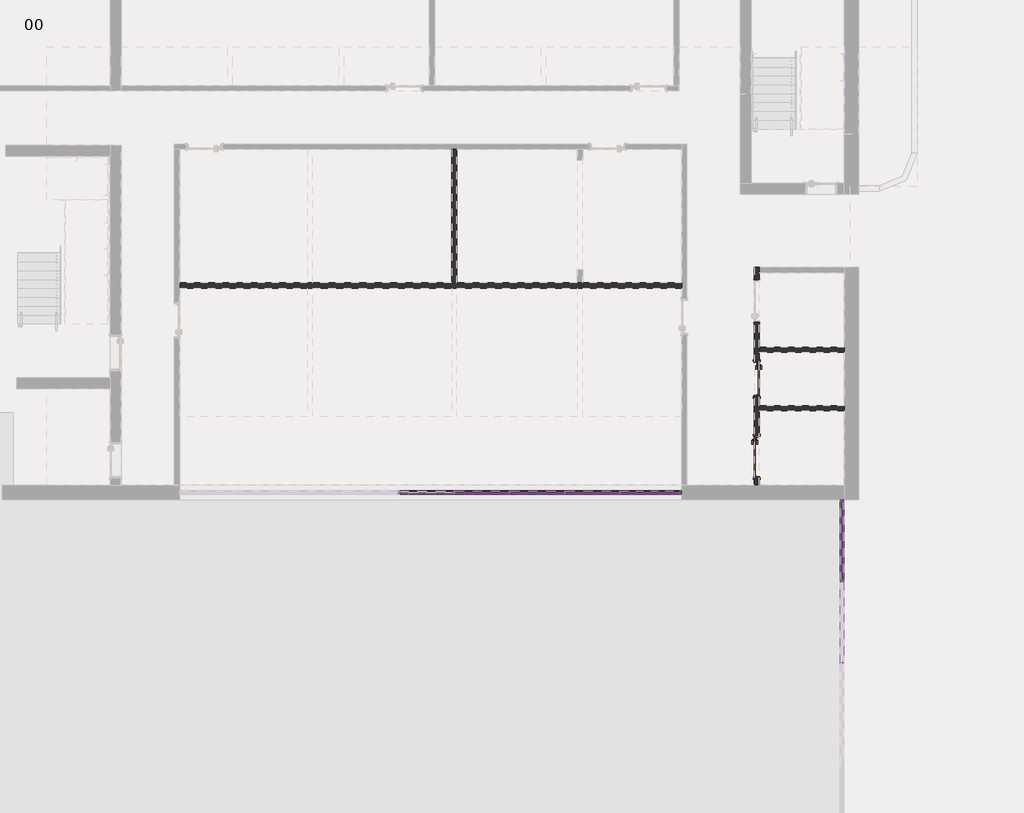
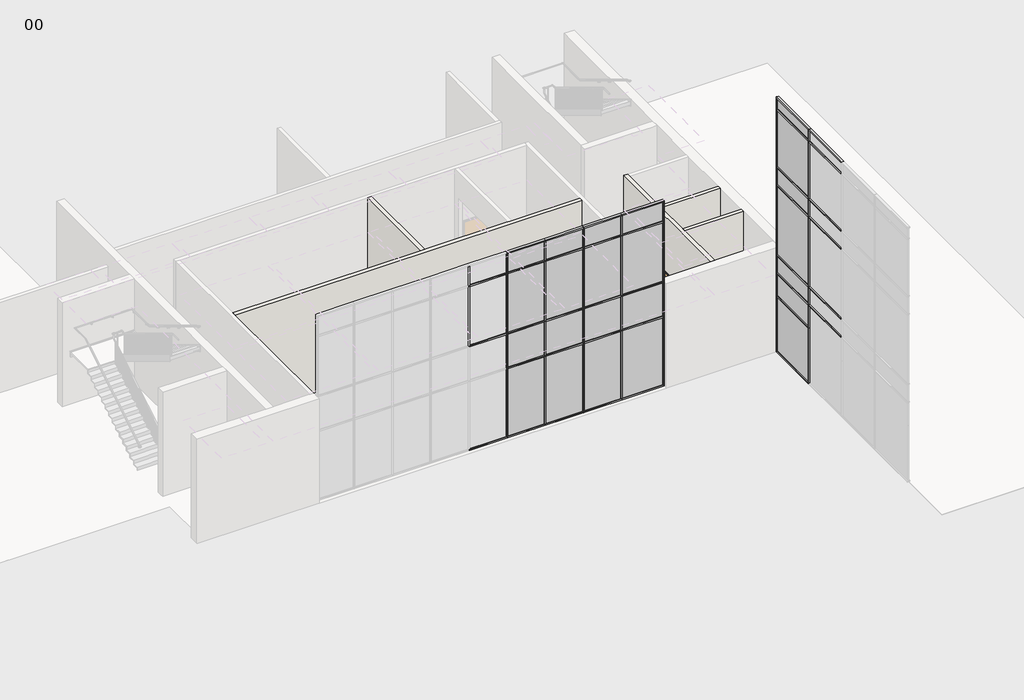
# One storey, part 3 of 11: 73 members, 23 plates, 5 walls, 2 doors.
"""IFC4 building model written with IfcOpenShell, lengths in millimetres."""

from ifc_helpers import new_model, si_unit, origin, origin_with_axes, place, context, project, spatial, polyline, outline, extrude, faceted_brep, transform, mapped, element, save
from components import doors_intsgl_1_1010x2110mm_12a6edaf, doors_intsgl_1_1200x2110mm_07b1b6db, rectangular_mullion_curtainwallmullion_rectangular_generic_5675a122, rectangular_mullion_curtainwallmullion_rectangular_generic_397fb318, rectangular_mullion_curtainwallmullion_rectangular_generic_8ae0e668, rectangular_mullion_curtainwallmullion_rectangular_generic_15c16c91, rectangular_mullion_curtainwallmullion_rectangular_generic_85ff6675, rectangular_mullion_curtainwallmullion_rectangular_generic_08fbcc14, rectangular_mullion_curtainwallmullion_rectangular_generic_672c12ae, rectangular_mullion_curtainwallmullion_rectangular_generic_83e55909, rectangular_mullion_curtainwallmullion_rectangular_generic_8792b306, rectangular_mullion_curtainwallmullion_rectangular_generic_adcf4dab, rectangular_mullion_curtainwallmullion_rectangular_generic_bca74f28, rectangular_mullion_curtainwallmullion_rectangular_generic_1467ba8b, rectangular_mullion_curtainwallmullion_rectangular_generic_1facc6e8, rectangular_mullion_curtainwallmullion_rectangular_generic_766165b3, rectangular_mullion_curtainwallmullion_rectangular_generic_b870b509, rectangular_mullion_curtainwallmullion_rectangular_generic_bb021e59, rectangular_mullion_curtainwallmullion_rectangular_generic_c971d07e, rectangular_mullion_curtainwallmullion_rectangular_generic_e6673756, rectangular_mullion_curtainwallmullion_rectangular_generic_63c9f2cf, rectangular_mullion_curtainwallmullion_rectangular_generic_d70bf6dd, rectangular_mullion_curtainwallmullion_rectangular_generic_654ac675, rectangular_mullion_curtainwallmullion_rectangular_generic_e7c47ca9, rectangular_mullion_curtainwallmullion_rectangular_generic_f3eef52e, rectangular_mullion_curtainwallmullion_rectangular_generic_c0600e94, rectangular_mullion_curtainwallmullion_rectangular_generic_0bcd7f07, rectangular_mullion_curtainwallmullion_rectangular_generic_3bdb59d8, rectangular_mullion_curtainwallmullion_rectangular_generic_afae33c0, rectangular_mullion_curtainwallmullion_rectangular_generic_6b79dff2, system_panel_curtainpanel_glazed_2a823346, system_panel_curtainpanel_glazed_29dab1f5, system_panel_curtainpanel_glazed_21ea604a, system_panel_curtainpanel_glazed_8c8521e7, system_panel_curtainpanel_glazed_c680861d, system_panel_curtainpanel_glazed_7c054268, system_panel_curtainpanel_glazed_8ab64ea0, system_panel_curtainpanel_glazed_beeb97b1, system_panel_curtainpanel_solid_7e97e8f3, system_panel_curtainpanel_solid_a1b8920c, system_panel_curtainpanel_solid_5b00d7df, system_panel_curtainpanel_solid_a154ba9f, system_panel_curtainpanel_solid_a51c248c, system_panel_curtainpanel_solid_c949ee80

model = new_model("IFC4")

# Units and contexts
model_context = context("Model", 3, world=origin())
ifc_project = project(units=[si_unit("LENGTHUNIT", "METRE", prefix="MILLI")], contexts=[model_context])

# Site, building, storey
site = spatial("IfcSite", under=ifc_project)
building = spatial("IfcBuilding", under=site)
storey = spatial("IfcBuildingStorey", under=building, Name="00", Elevation=0.0)

# Doors
placement = place(None, origin())
doors_intsgl_1_1010x2110mm_shape = doors_intsgl_1_1010x2110mm_12a6edaf(model_context)
element("IfcDoor", 1, ObjectType="Doors_IntSgl_1 : 1010x2110mm", at=placement, inside=storey, context=model_context, shape_type="MappedRepresentation", body=[
    mapped(doors_intsgl_1_1010x2110mm_shape, transform((443263.3206883, -393328.0026386, 0.0), x_axis=(0.0, -1.0, 0.0), y_axis=(1.0, 0.0, 0.0), z_axis=(0.0, 0.0, 1.0))),
])
doors_intsgl_1_1200x2110mm_shape = doors_intsgl_1_1200x2110mm_07b1b6db(model_context)
element("IfcDoor", 2, ObjectType="Doors_IntSgl_1 : 1200x2110mm", at=placement, inside=storey, context=model_context, shape_type="MappedRepresentation", body=[
    mapped(doors_intsgl_1_1200x2110mm_shape, transform((443263.3206883, -395528.0026386, 0.0), x_axis=(0.0, -1.0, 0.0), y_axis=(1.0, 0.0, 0.0), z_axis=(0.0, 0.0, 1.0))),
])

# Members
rectangular_mullion_curtainwallmullion_rectangular_generic_shape = rectangular_mullion_curtainwallmullion_rectangular_generic_5675a122(model_context)
element("IfcMember", 3, ObjectType="Rectangular Mullion : CurtainWallMullion_Rectangular_Generic", at=placement, inside=storey, context=model_context, shape_type="MappedRepresentation", body=[
    mapped(rectangular_mullion_curtainwallmullion_rectangular_generic_shape, transform((445668.3206883, -399032.2026388, 50.0), x_axis=(0.0, 1.0, 0.0), y_axis=(1.0, 0.0, 0.0), z_axis=(0.0, 0.0, -1.0))),
])
rectangular_mullion_curtainwallmullion_rectangular_generic_2_shape = rectangular_mullion_curtainwallmullion_rectangular_generic_397fb318(model_context)
element("IfcMember", 4, ObjectType="Rectangular Mullion : CurtainWallMullion_Rectangular_Generic", at=placement, inside=storey, context=model_context, shape_type="MappedRepresentation", body=[
    mapped(rectangular_mullion_curtainwallmullion_rectangular_generic_2_shape, transform((445668.3206883, -396730.0026386, 50.0), x_axis=(0.0, 1.0, 0.0), y_axis=(1.0, 0.0, 0.0), z_axis=(0.0, 0.0, -1.0))),
])
rectangular_mullion_curtainwallmullion_rectangular_generic_3_shape = rectangular_mullion_curtainwallmullion_rectangular_generic_8ae0e668(model_context)
element("IfcMember", 5, ObjectType="Rectangular Mullion : CurtainWallMullion_Rectangular_Generic", at=placement, inside=storey, context=model_context, shape_type="MappedRepresentation", body=[
    mapped(rectangular_mullion_curtainwallmullion_rectangular_generic_3_shape, transform((445668.3206883, -399032.2026388, 10486.7), x_axis=(0.0, 1.0, 0.0), y_axis=(1.0, 0.0, 0.0), z_axis=(0.0, 0.0, -1.0))),
])
rectangular_mullion_curtainwallmullion_rectangular_generic_4_shape = rectangular_mullion_curtainwallmullion_rectangular_generic_15c16c91(model_context)
element("IfcMember", 6, ObjectType="Rectangular Mullion : CurtainWallMullion_Rectangular_Generic", at=placement, inside=storey, context=model_context, shape_type="MappedRepresentation", body=[
    mapped(rectangular_mullion_curtainwallmullion_rectangular_generic_4_shape, transform((445668.3206883, -396730.0026386, 10486.7), x_axis=(0.0, 1.0, 0.0), y_axis=(1.0, 0.0, 0.0), z_axis=(0.0, 0.0, -1.0))),
])
rectangular_mullion_curtainwallmullion_rectangular_generic_5_shape = rectangular_mullion_curtainwallmullion_rectangular_generic_85ff6675(model_context)
element("IfcMember", 7, ObjectType="Rectangular Mullion : CurtainWallMullion_Rectangular_Generic", at=placement, inside=storey, context=model_context, shape_type="MappedRepresentation", body=[
    mapped(rectangular_mullion_curtainwallmullion_rectangular_generic_5_shape, transform((445668.3206883, -399032.2026388, 3425.0), x_axis=(0.0, 1.0, 0.0), y_axis=(1.0, 0.0, 0.0), z_axis=(0.0, 0.0, -1.0))),
])
element("IfcMember", 8, ObjectType="Rectangular Mullion : CurtainWallMullion_Rectangular_Generic", at=placement, inside=storey, context=model_context, shape_type="MappedRepresentation", body=[
    mapped(rectangular_mullion_curtainwallmullion_rectangular_generic_5_shape, transform((445668.3206883, -399032.2026388, 7225.0), x_axis=(0.0, 1.0, 0.0), y_axis=(1.0, 0.0, 0.0), z_axis=(0.0, 0.0, -1.0))),
])
rectangular_mullion_curtainwallmullion_rectangular_generic_6_shape = rectangular_mullion_curtainwallmullion_rectangular_generic_08fbcc14(model_context)
element("IfcMember", 9, ObjectType="Rectangular Mullion : CurtainWallMullion_Rectangular_Generic", at=placement, inside=storey, context=model_context, shape_type="MappedRepresentation", body=[
    mapped(rectangular_mullion_curtainwallmullion_rectangular_generic_6_shape, transform((445668.3206883, -399032.2026388, 8000.0), x_axis=(0.0, 1.0, 0.0), y_axis=(1.0, 0.0, 0.0), z_axis=(0.0, 0.0, -1.0))),
])
rectangular_mullion_curtainwallmullion_rectangular_generic_7_shape = rectangular_mullion_curtainwallmullion_rectangular_generic_672c12ae(model_context)
element("IfcMember", 10, ObjectType="Rectangular Mullion : CurtainWallMullion_Rectangular_Generic", at=placement, inside=storey, context=model_context, shape_type="MappedRepresentation", body=[
    mapped(rectangular_mullion_curtainwallmullion_rectangular_generic_7_shape, transform((445668.3206883, -396730.0026386, 7225.0), x_axis=(0.0, 1.0, 0.0), y_axis=(1.0, 0.0, 0.0), z_axis=(0.0, 0.0, -1.0))),
])
element("IfcMember", 11, ObjectType="Rectangular Mullion : CurtainWallMullion_Rectangular_Generic", at=placement, inside=storey, context=model_context, shape_type="MappedRepresentation", body=[
    mapped(rectangular_mullion_curtainwallmullion_rectangular_generic_7_shape, transform((445668.3206883, -396730.0026386, 3425.0), x_axis=(0.0, 1.0, 0.0), y_axis=(1.0, 0.0, 0.0), z_axis=(0.0, 0.0, -1.0))),
])
rectangular_mullion_curtainwallmullion_rectangular_generic_8_shape = rectangular_mullion_curtainwallmullion_rectangular_generic_83e55909(model_context)
element("IfcMember", 12, ObjectType="Rectangular Mullion : CurtainWallMullion_Rectangular_Generic", at=placement, inside=storey, context=model_context, shape_type="MappedRepresentation", body=[
    mapped(rectangular_mullion_curtainwallmullion_rectangular_generic_8_shape, transform((445668.3206883, -396730.0026386, 8000.0), x_axis=(0.0, 1.0, 0.0), y_axis=(1.0, 0.0, 0.0), z_axis=(0.0, 0.0, -1.0))),
])
rectangular_mullion_curtainwallmullion_rectangular_generic_9_shape = rectangular_mullion_curtainwallmullion_rectangular_generic_8792b306(model_context)
element("IfcMember", 13, ObjectType="Rectangular Mullion : CurtainWallMullion_Rectangular_Generic", at=placement, inside=storey, context=model_context, shape_type="MappedRepresentation", body=[
    mapped(rectangular_mullion_curtainwallmullion_rectangular_generic_9_shape, transform((445668.3206883, -399032.2026388, 4200.0), x_axis=(0.0, 1.0, 0.0), y_axis=(1.0, 0.0, 0.0), z_axis=(0.0, 0.0, -1.0))),
])
rectangular_mullion_curtainwallmullion_rectangular_generic_10_shape = rectangular_mullion_curtainwallmullion_rectangular_generic_adcf4dab(model_context)
element("IfcMember", 14, ObjectType="Rectangular Mullion : CurtainWallMullion_Rectangular_Generic", at=placement, inside=storey, context=model_context, shape_type="MappedRepresentation", body=[
    mapped(rectangular_mullion_curtainwallmullion_rectangular_generic_10_shape, transform((445668.3206883, -396730.0026386, 4200.0), x_axis=(0.0, 1.0, 0.0), y_axis=(1.0, 0.0, 0.0), z_axis=(0.0, 0.0, -1.0))),
])
rectangular_mullion_curtainwallmullion_rectangular_generic_11_shape = rectangular_mullion_curtainwallmullion_rectangular_generic_bca74f28(model_context)
element("IfcMember", 15, ObjectType="Rectangular Mullion : CurtainWallMullion_Rectangular_Generic", at=placement, inside=storey, context=model_context, shape_type="MappedRepresentation", body=[
    mapped(rectangular_mullion_curtainwallmullion_rectangular_generic_11_shape, transform((445668.3206883, -399032.2026388, 2425.0), x_axis=(0.0, 1.0, 0.0), y_axis=(1.0, 0.0, 0.0), z_axis=(0.0, 0.0, -1.0))),
])
rectangular_mullion_curtainwallmullion_rectangular_generic_12_shape = rectangular_mullion_curtainwallmullion_rectangular_generic_1467ba8b(model_context)
element("IfcMember", 16, ObjectType="Rectangular Mullion : CurtainWallMullion_Rectangular_Generic", at=placement, inside=storey, context=model_context, shape_type="MappedRepresentation", body=[
    mapped(rectangular_mullion_curtainwallmullion_rectangular_generic_12_shape, transform((445668.3206883, -396730.0026386, 2425.0), x_axis=(0.0, 1.0, 0.0), y_axis=(1.0, 0.0, 0.0), z_axis=(0.0, 0.0, -1.0))),
])
rectangular_mullion_curtainwallmullion_rectangular_generic_13_shape = rectangular_mullion_curtainwallmullion_rectangular_generic_1facc6e8(model_context)
element("IfcMember", 17, ObjectType="Rectangular Mullion : CurtainWallMullion_Rectangular_Generic", at=placement, inside=storey, context=model_context, shape_type="MappedRepresentation", body=[
    mapped(rectangular_mullion_curtainwallmullion_rectangular_generic_13_shape, transform((445668.3206883, -396730.0026386, 11000.0), x_axis=(0.0, 0.0, 1.0), y_axis=(1.0, 0.0, 0.0), z_axis=(0.0, 1.0, 0.0))),
])
rectangular_mullion_curtainwallmullion_rectangular_generic_14_shape = rectangular_mullion_curtainwallmullion_rectangular_generic_766165b3(model_context)
element("IfcMember", 18, ObjectType="Rectangular Mullion : CurtainWallMullion_Rectangular_Generic", at=placement, inside=storey, context=model_context, shape_type="MappedRepresentation", body=[
    mapped(rectangular_mullion_curtainwallmullion_rectangular_generic_14_shape, transform((445668.3206883, -399032.2026388, 11000.0), x_axis=(0.0, 0.0, 1.0), y_axis=(1.0, 0.0, 0.0), z_axis=(0.0, 1.0, 0.0))),
])
rectangular_mullion_curtainwallmullion_rectangular_generic_15_shape = rectangular_mullion_curtainwallmullion_rectangular_generic_b870b509(model_context)
element("IfcMember", 19, ObjectType="Rectangular Mullion : CurtainWallMullion_Rectangular_Generic", at=placement, inside=storey, context=model_context, shape_type="MappedRepresentation", body=[
    mapped(rectangular_mullion_curtainwallmullion_rectangular_generic_15_shape, transform((445668.3206883, -399057.2026388, 4200.0), x_axis=(0.0, 0.0, 1.0), y_axis=(1.0, 0.0, 0.0), z_axis=(0.0, 1.0, 0.0))),
])
element("IfcMember", 20, ObjectType="Rectangular Mullion : CurtainWallMullion_Rectangular_Generic", at=placement, inside=storey, context=model_context, shape_type="MappedRepresentation", body=[
    mapped(rectangular_mullion_curtainwallmullion_rectangular_generic_15_shape, transform((445668.3206883, -399057.2026388, 7225.0), x_axis=(0.0, 0.0, 1.0), y_axis=(1.0, 0.0, 0.0), z_axis=(0.0, 1.0, 0.0))),
])
element("IfcMember", 21, ObjectType="Rectangular Mullion : CurtainWallMullion_Rectangular_Generic", at=placement, inside=storey, context=model_context, shape_type="MappedRepresentation", body=[
    mapped(rectangular_mullion_curtainwallmullion_rectangular_generic_15_shape, transform((445668.3206883, -399057.2026388, 10486.7), x_axis=(0.0, 0.0, 1.0), y_axis=(1.0, 0.0, 0.0), z_axis=(0.0, 1.0, 0.0))),
])
element("IfcMember", 22, ObjectType="Rectangular Mullion : CurtainWallMullion_Rectangular_Generic", at=placement, inside=storey, context=model_context, shape_type="MappedRepresentation", body=[
    mapped(rectangular_mullion_curtainwallmullion_rectangular_generic_15_shape, transform((445668.3206883, -399057.2026388, 3425.0), x_axis=(0.0, 0.0, 1.0), y_axis=(1.0, 0.0, 0.0), z_axis=(0.0, 1.0, 0.0))),
])
element("IfcMember", 23, ObjectType="Rectangular Mullion : CurtainWallMullion_Rectangular_Generic", at=placement, inside=storey, context=model_context, shape_type="MappedRepresentation", body=[
    mapped(rectangular_mullion_curtainwallmullion_rectangular_generic_15_shape, transform((445668.3206883, -399057.2026388, 8000.0), x_axis=(0.0, 0.0, 1.0), y_axis=(1.0, 0.0, 0.0), z_axis=(0.0, 1.0, 0.0))),
])
element("IfcMember", 24, ObjectType="Rectangular Mullion : CurtainWallMullion_Rectangular_Generic", at=placement, inside=storey, context=model_context, shape_type="MappedRepresentation", body=[
    mapped(rectangular_mullion_curtainwallmullion_rectangular_generic_13_shape, transform((445668.3206883, -399032.2026388, 0.0), x_axis=(0.0, 0.0, -1.0), y_axis=(1.0, 0.0, 0.0), z_axis=(0.0, -1.0, 0.0))),
])
rectangular_mullion_curtainwallmullion_rectangular_generic_16_shape = rectangular_mullion_curtainwallmullion_rectangular_generic_bb021e59(model_context)
element("IfcMember", 25, ObjectType="Rectangular Mullion : CurtainWallMullion_Rectangular_Generic", at=placement, inside=storey, context=model_context, shape_type="MappedRepresentation", body=[
    mapped(rectangular_mullion_curtainwallmullion_rectangular_generic_16_shape, transform((445668.3206883, -396780.0026386, 2425.0), x_axis=(0.0, 0.0, 1.0), y_axis=(1.0, 0.0, 0.0), z_axis=(0.0, 1.0, 0.0))),
])
element("IfcMember", 26, ObjectType="Rectangular Mullion : CurtainWallMullion_Rectangular_Generic", at=placement, inside=storey, context=model_context, shape_type="MappedRepresentation", body=[
    mapped(rectangular_mullion_curtainwallmullion_rectangular_generic_16_shape, transform((445668.3206883, -396780.0026386, 4200.0), x_axis=(0.0, 0.0, 1.0), y_axis=(1.0, 0.0, 0.0), z_axis=(0.0, 1.0, 0.0))),
])
element("IfcMember", 27, ObjectType="Rectangular Mullion : CurtainWallMullion_Rectangular_Generic", at=placement, inside=storey, context=model_context, shape_type="MappedRepresentation", body=[
    mapped(rectangular_mullion_curtainwallmullion_rectangular_generic_16_shape, transform((445668.3206883, -396780.0026386, 7225.0), x_axis=(0.0, 0.0, 1.0), y_axis=(1.0, 0.0, 0.0), z_axis=(0.0, 1.0, 0.0))),
])
element("IfcMember", 28, ObjectType="Rectangular Mullion : CurtainWallMullion_Rectangular_Generic", at=placement, inside=storey, context=model_context, shape_type="MappedRepresentation", body=[
    mapped(rectangular_mullion_curtainwallmullion_rectangular_generic_16_shape, transform((445668.3206883, -396780.0026386, 10486.7), x_axis=(0.0, 0.0, 1.0), y_axis=(1.0, 0.0, 0.0), z_axis=(0.0, 1.0, 0.0))),
])
element("IfcMember", 29, ObjectType="Rectangular Mullion : CurtainWallMullion_Rectangular_Generic", at=placement, inside=storey, context=model_context, shape_type="MappedRepresentation", body=[
    mapped(rectangular_mullion_curtainwallmullion_rectangular_generic_16_shape, transform((445668.3206883, -396780.0026386, 3425.0), x_axis=(0.0, 0.0, 1.0), y_axis=(1.0, 0.0, 0.0), z_axis=(0.0, 1.0, 0.0))),
])
element("IfcMember", 30, ObjectType="Rectangular Mullion : CurtainWallMullion_Rectangular_Generic", at=placement, inside=storey, context=model_context, shape_type="MappedRepresentation", body=[
    mapped(rectangular_mullion_curtainwallmullion_rectangular_generic_16_shape, transform((445668.3206883, -396780.0026386, 8000.0), x_axis=(0.0, 0.0, 1.0), y_axis=(1.0, 0.0, 0.0), z_axis=(0.0, 1.0, 0.0))),
])
rectangular_mullion_curtainwallmullion_rectangular_generic_17_shape = rectangular_mullion_curtainwallmullion_rectangular_generic_c971d07e(model_context)
element("IfcMember", 31, ObjectType="Rectangular Mullion : CurtainWallMullion_Rectangular_Generic", at=placement, inside=storey, context=model_context, shape_type="MappedRepresentation", body=[
    mapped(rectangular_mullion_curtainwallmullion_rectangular_generic_17_shape, transform((437850.0984659, -396529.0026386, 8000.0), x_axis=(0.0, 0.0, 1.0), y_axis=(0.0, 1.0, 0.0), z_axis=(-1.0, 0.0, 0.0))),
])
element("IfcMember", 32, ObjectType="Rectangular Mullion : CurtainWallMullion_Rectangular_Generic", at=placement, inside=storey, context=model_context, shape_type="MappedRepresentation", body=[
    mapped(rectangular_mullion_curtainwallmullion_rectangular_generic_17_shape, transform((436288.9873549, -396529.0026386, 8000.0), x_axis=(0.0, 0.0, 1.0), y_axis=(0.0, 1.0, 0.0), z_axis=(-1.0, 0.0, 0.0))),
])
element("IfcMember", 33, ObjectType="Rectangular Mullion : CurtainWallMullion_Rectangular_Generic", at=placement, inside=storey, context=model_context, shape_type="MappedRepresentation", body=[
    mapped(rectangular_mullion_curtainwallmullion_rectangular_generic_17_shape, transform((434727.8762438, -396529.0026386, 8000.0), x_axis=(0.0, 0.0, 1.0), y_axis=(0.0, 1.0, 0.0), z_axis=(-1.0, 0.0, 0.0))),
])
element("IfcMember", 34, ObjectType="Rectangular Mullion : CurtainWallMullion_Rectangular_Generic", at=placement, inside=storey, context=model_context, shape_type="MappedRepresentation", body=[
    mapped(rectangular_mullion_curtainwallmullion_rectangular_generic_17_shape, transform((439411.209577, -396529.0026386, 0.0), x_axis=(0.0, 0.0, -1.0), y_axis=(0.0, 1.0, 0.0), z_axis=(1.0, 0.0, 0.0))),
])
element("IfcMember", 35, ObjectType="Rectangular Mullion : CurtainWallMullion_Rectangular_Generic", at=placement, inside=storey, context=model_context, shape_type="MappedRepresentation", body=[
    mapped(rectangular_mullion_curtainwallmullion_rectangular_generic_17_shape, transform((437850.0984659, -396529.0026386, 0.0), x_axis=(0.0, 0.0, -1.0), y_axis=(0.0, 1.0, 0.0), z_axis=(1.0, 0.0, 0.0))),
])
element("IfcMember", 36, ObjectType="Rectangular Mullion : CurtainWallMullion_Rectangular_Generic", at=placement, inside=storey, context=model_context, shape_type="MappedRepresentation", body=[
    mapped(rectangular_mullion_curtainwallmullion_rectangular_generic_17_shape, transform((436288.9873549, -396529.0026386, 0.0), x_axis=(0.0, 0.0, -1.0), y_axis=(0.0, 1.0, 0.0), z_axis=(1.0, 0.0, 0.0))),
])
element("IfcMember", 37, ObjectType="Rectangular Mullion : CurtainWallMullion_Rectangular_Generic", at=placement, inside=storey, context=model_context, shape_type="MappedRepresentation", body=[
    mapped(rectangular_mullion_curtainwallmullion_rectangular_generic_17_shape, transform((434727.8762438, -396529.0026386, 0.0), x_axis=(0.0, 0.0, -1.0), y_axis=(0.0, 1.0, 0.0), z_axis=(1.0, 0.0, 0.0))),
])
rectangular_mullion_curtainwallmullion_rectangular_generic_18_shape = rectangular_mullion_curtainwallmullion_rectangular_generic_e6673756(model_context)
element("IfcMember", 38, ObjectType="Rectangular Mullion : CurtainWallMullion_Rectangular_Generic", at=placement, inside=storey, context=model_context, shape_type="MappedRepresentation", body=[
    mapped(rectangular_mullion_curtainwallmullion_rectangular_generic_18_shape, transform((437875.0984659, -396529.0026386, 3000.0), x_axis=(0.0, 0.0, 1.0), y_axis=(0.0, 1.0, 0.0), z_axis=(-1.0, 0.0, 0.0))),
])
element("IfcMember", 39, ObjectType="Rectangular Mullion : CurtainWallMullion_Rectangular_Generic", at=placement, inside=storey, context=model_context, shape_type="MappedRepresentation", body=[
    mapped(rectangular_mullion_curtainwallmullion_rectangular_generic_18_shape, transform((436313.9873549, -396529.0026386, 3000.0), x_axis=(0.0, 0.0, 1.0), y_axis=(0.0, 1.0, 0.0), z_axis=(-1.0, 0.0, 0.0))),
])
element("IfcMember", 40, ObjectType="Rectangular Mullion : CurtainWallMullion_Rectangular_Generic", at=placement, inside=storey, context=model_context, shape_type="MappedRepresentation", body=[
    mapped(rectangular_mullion_curtainwallmullion_rectangular_generic_18_shape, transform((434752.8762438, -396529.0026386, 3000.0), x_axis=(0.0, 0.0, 1.0), y_axis=(0.0, 1.0, 0.0), z_axis=(-1.0, 0.0, 0.0))),
])
element("IfcMember", 41, ObjectType="Rectangular Mullion : CurtainWallMullion_Rectangular_Generic", at=placement, inside=storey, context=model_context, shape_type="MappedRepresentation", body=[
    mapped(rectangular_mullion_curtainwallmullion_rectangular_generic_18_shape, transform((437875.0984659, -396529.0026386, 4500.0), x_axis=(0.0, 0.0, 1.0), y_axis=(0.0, 1.0, 0.0), z_axis=(-1.0, 0.0, 0.0))),
])
element("IfcMember", 42, ObjectType="Rectangular Mullion : CurtainWallMullion_Rectangular_Generic", at=placement, inside=storey, context=model_context, shape_type="MappedRepresentation", body=[
    mapped(rectangular_mullion_curtainwallmullion_rectangular_generic_18_shape, transform((436313.9873549, -396529.0026386, 4500.0), x_axis=(0.0, 0.0, 1.0), y_axis=(0.0, 1.0, 0.0), z_axis=(-1.0, 0.0, 0.0))),
])
element("IfcMember", 43, ObjectType="Rectangular Mullion : CurtainWallMullion_Rectangular_Generic", at=placement, inside=storey, context=model_context, shape_type="MappedRepresentation", body=[
    mapped(rectangular_mullion_curtainwallmullion_rectangular_generic_18_shape, transform((434752.8762438, -396529.0026386, 4500.0), x_axis=(0.0, 0.0, 1.0), y_axis=(0.0, 1.0, 0.0), z_axis=(-1.0, 0.0, 0.0))),
])
element("IfcMember", 44, ObjectType="Rectangular Mullion : CurtainWallMullion_Rectangular_Generic", at=placement, inside=storey, context=model_context, shape_type="MappedRepresentation", body=[
    mapped(rectangular_mullion_curtainwallmullion_rectangular_generic_18_shape, transform((433191.7651328, -396529.0026386, 4500.0), x_axis=(0.0, 0.0, 1.0), y_axis=(0.0, 1.0, 0.0), z_axis=(-1.0, 0.0, 0.0))),
])
element("IfcMember", 45, ObjectType="Rectangular Mullion : CurtainWallMullion_Rectangular_Generic", at=placement, inside=storey, context=model_context, shape_type="MappedRepresentation", body=[
    mapped(rectangular_mullion_curtainwallmullion_rectangular_generic_18_shape, transform((437875.0984659, -396529.0026386, 7100.0), x_axis=(0.0, 0.0, 1.0), y_axis=(0.0, 1.0, 0.0), z_axis=(-1.0, 0.0, 0.0))),
])
element("IfcMember", 46, ObjectType="Rectangular Mullion : CurtainWallMullion_Rectangular_Generic", at=placement, inside=storey, context=model_context, shape_type="MappedRepresentation", body=[
    mapped(rectangular_mullion_curtainwallmullion_rectangular_generic_18_shape, transform((436313.9873549, -396529.0026386, 7100.0), x_axis=(0.0, 0.0, 1.0), y_axis=(0.0, 1.0, 0.0), z_axis=(-1.0, 0.0, 0.0))),
])
element("IfcMember", 47, ObjectType="Rectangular Mullion : CurtainWallMullion_Rectangular_Generic", at=placement, inside=storey, context=model_context, shape_type="MappedRepresentation", body=[
    mapped(rectangular_mullion_curtainwallmullion_rectangular_generic_18_shape, transform((434752.8762438, -396529.0026386, 7100.0), x_axis=(0.0, 0.0, 1.0), y_axis=(0.0, 1.0, 0.0), z_axis=(-1.0, 0.0, 0.0))),
])
element("IfcMember", 48, ObjectType="Rectangular Mullion : CurtainWallMullion_Rectangular_Generic", at=placement, inside=storey, context=model_context, shape_type="MappedRepresentation", body=[
    mapped(rectangular_mullion_curtainwallmullion_rectangular_generic_18_shape, transform((433191.7651328, -396529.0026386, 7100.0), x_axis=(0.0, 0.0, 1.0), y_axis=(0.0, 1.0, 0.0), z_axis=(-1.0, 0.0, 0.0))),
])
rectangular_mullion_curtainwallmullion_rectangular_generic_19_shape = rectangular_mullion_curtainwallmullion_rectangular_generic_63c9f2cf(model_context)
element("IfcMember", 49, ObjectType="Rectangular Mullion : CurtainWallMullion_Rectangular_Generic", at=placement, inside=storey, context=model_context, shape_type="MappedRepresentation", body=[
    mapped(rectangular_mullion_curtainwallmullion_rectangular_generic_19_shape, transform((439411.209577, -396529.0026386, 7100.0), x_axis=(-1.0, 0.0, 0.0), y_axis=(0.0, 1.0, 0.0), z_axis=(0.0, 0.0, -1.0))),
])
element("IfcMember", 50, ObjectType="Rectangular Mullion : CurtainWallMullion_Rectangular_Generic", at=placement, inside=storey, context=model_context, shape_type="MappedRepresentation", body=[
    mapped(rectangular_mullion_curtainwallmullion_rectangular_generic_19_shape, transform((437850.0984659, -396529.0026386, 7100.0), x_axis=(-1.0, 0.0, 0.0), y_axis=(0.0, 1.0, 0.0), z_axis=(0.0, 0.0, -1.0))),
])
element("IfcMember", 51, ObjectType="Rectangular Mullion : CurtainWallMullion_Rectangular_Generic", at=placement, inside=storey, context=model_context, shape_type="MappedRepresentation", body=[
    mapped(rectangular_mullion_curtainwallmullion_rectangular_generic_19_shape, transform((436288.9873549, -396529.0026386, 7100.0), x_axis=(-1.0, 0.0, 0.0), y_axis=(0.0, 1.0, 0.0), z_axis=(0.0, 0.0, -1.0))),
])
element("IfcMember", 52, ObjectType="Rectangular Mullion : CurtainWallMullion_Rectangular_Generic", at=placement, inside=storey, context=model_context, shape_type="MappedRepresentation", body=[
    mapped(rectangular_mullion_curtainwallmullion_rectangular_generic_19_shape, transform((434727.8762438, -396529.0026386, 7100.0), x_axis=(-1.0, 0.0, 0.0), y_axis=(0.0, 1.0, 0.0), z_axis=(0.0, 0.0, -1.0))),
])
element("IfcMember", 53, ObjectType="Rectangular Mullion : CurtainWallMullion_Rectangular_Generic", at=placement, inside=storey, context=model_context, shape_type="MappedRepresentation", body=[
    mapped(rectangular_mullion_curtainwallmullion_rectangular_generic_19_shape, transform((433166.7651328, -396529.0026386, 7100.0), x_axis=(-1.0, 0.0, 0.0), y_axis=(0.0, 1.0, 0.0), z_axis=(0.0, 0.0, -1.0))),
])
rectangular_mullion_curtainwallmullion_rectangular_generic_20_shape = rectangular_mullion_curtainwallmullion_rectangular_generic_d70bf6dd(model_context)
element("IfcMember", 54, ObjectType="Rectangular Mullion : CurtainWallMullion_Rectangular_Generic", at=placement, inside=storey, context=model_context, shape_type="MappedRepresentation", body=[
    mapped(rectangular_mullion_curtainwallmullion_rectangular_generic_20_shape, transform((441142.3206883, -396529.0026386, 7950.0), x_axis=(1.0, 0.0, 0.0), y_axis=(0.0, 1.0, 0.0), z_axis=(0.0, 0.0, 1.0))),
])
rectangular_mullion_curtainwallmullion_rectangular_generic_21_shape = rectangular_mullion_curtainwallmullion_rectangular_generic_654ac675(model_context)
element("IfcMember", 55, ObjectType="Rectangular Mullion : CurtainWallMullion_Rectangular_Generic", at=placement, inside=storey, context=model_context, shape_type="MappedRepresentation", body=[
    mapped(rectangular_mullion_curtainwallmullion_rectangular_generic_21_shape, transform((439411.209577, -396529.0026386, 4500.0), x_axis=(-1.0, 0.0, 0.0), y_axis=(0.0, 1.0, 0.0), z_axis=(0.0, 0.0, -1.0))),
])
element("IfcMember", 56, ObjectType="Rectangular Mullion : CurtainWallMullion_Rectangular_Generic", at=placement, inside=storey, context=model_context, shape_type="MappedRepresentation", body=[
    mapped(rectangular_mullion_curtainwallmullion_rectangular_generic_21_shape, transform((437850.0984659, -396529.0026386, 4500.0), x_axis=(-1.0, 0.0, 0.0), y_axis=(0.0, 1.0, 0.0), z_axis=(0.0, 0.0, -1.0))),
])
element("IfcMember", 57, ObjectType="Rectangular Mullion : CurtainWallMullion_Rectangular_Generic", at=placement, inside=storey, context=model_context, shape_type="MappedRepresentation", body=[
    mapped(rectangular_mullion_curtainwallmullion_rectangular_generic_21_shape, transform((436288.9873549, -396529.0026386, 4500.0), x_axis=(-1.0, 0.0, 0.0), y_axis=(0.0, 1.0, 0.0), z_axis=(0.0, 0.0, -1.0))),
])
element("IfcMember", 58, ObjectType="Rectangular Mullion : CurtainWallMullion_Rectangular_Generic", at=placement, inside=storey, context=model_context, shape_type="MappedRepresentation", body=[
    mapped(rectangular_mullion_curtainwallmullion_rectangular_generic_21_shape, transform((434727.8762438, -396529.0026386, 4500.0), x_axis=(-1.0, 0.0, 0.0), y_axis=(0.0, 1.0, 0.0), z_axis=(0.0, 0.0, -1.0))),
])
element("IfcMember", 59, ObjectType="Rectangular Mullion : CurtainWallMullion_Rectangular_Generic", at=placement, inside=storey, context=model_context, shape_type="MappedRepresentation", body=[
    mapped(rectangular_mullion_curtainwallmullion_rectangular_generic_21_shape, transform((433166.7651328, -396529.0026386, 4500.0), x_axis=(-1.0, 0.0, 0.0), y_axis=(0.0, 1.0, 0.0), z_axis=(0.0, 0.0, -1.0))),
])
rectangular_mullion_curtainwallmullion_rectangular_generic_22_shape = rectangular_mullion_curtainwallmullion_rectangular_generic_e7c47ca9(model_context)
element("IfcMember", 60, ObjectType="Rectangular Mullion : CurtainWallMullion_Rectangular_Generic", at=placement, inside=storey, context=model_context, shape_type="MappedRepresentation", body=[
    mapped(rectangular_mullion_curtainwallmullion_rectangular_generic_22_shape, transform((441142.3206883, -396529.0026386, 7100.0), x_axis=(1.0, 0.0, 0.0), y_axis=(0.0, 1.0, 0.0), z_axis=(0.0, 0.0, 1.0))),
])
rectangular_mullion_curtainwallmullion_rectangular_generic_23_shape = rectangular_mullion_curtainwallmullion_rectangular_generic_f3eef52e(model_context)
element("IfcMember", 61, ObjectType="Rectangular Mullion : CurtainWallMullion_Rectangular_Generic", at=placement, inside=storey, context=model_context, shape_type="MappedRepresentation", body=[
    mapped(rectangular_mullion_curtainwallmullion_rectangular_generic_23_shape, transform((439411.209577, -396529.0026386, 50.0), x_axis=(-1.0, 0.0, 0.0), y_axis=(0.0, 1.0, 0.0), z_axis=(0.0, 0.0, -1.0))),
])
element("IfcMember", 62, ObjectType="Rectangular Mullion : CurtainWallMullion_Rectangular_Generic", at=placement, inside=storey, context=model_context, shape_type="MappedRepresentation", body=[
    mapped(rectangular_mullion_curtainwallmullion_rectangular_generic_23_shape, transform((437850.0984659, -396529.0026386, 50.0), x_axis=(-1.0, 0.0, 0.0), y_axis=(0.0, 1.0, 0.0), z_axis=(0.0, 0.0, -1.0))),
])
element("IfcMember", 63, ObjectType="Rectangular Mullion : CurtainWallMullion_Rectangular_Generic", at=placement, inside=storey, context=model_context, shape_type="MappedRepresentation", body=[
    mapped(rectangular_mullion_curtainwallmullion_rectangular_generic_23_shape, transform((436288.9873549, -396529.0026386, 50.0), x_axis=(-1.0, 0.0, 0.0), y_axis=(0.0, 1.0, 0.0), z_axis=(0.0, 0.0, -1.0))),
])
element("IfcMember", 64, ObjectType="Rectangular Mullion : CurtainWallMullion_Rectangular_Generic", at=placement, inside=storey, context=model_context, shape_type="MappedRepresentation", body=[
    mapped(rectangular_mullion_curtainwallmullion_rectangular_generic_23_shape, transform((434727.8762438, -396529.0026386, 50.0), x_axis=(-1.0, 0.0, 0.0), y_axis=(0.0, 1.0, 0.0), z_axis=(0.0, 0.0, -1.0))),
])
rectangular_mullion_curtainwallmullion_rectangular_generic_24_shape = rectangular_mullion_curtainwallmullion_rectangular_generic_c0600e94(model_context)
element("IfcMember", 65, ObjectType="Rectangular Mullion : CurtainWallMullion_Rectangular_Generic", at=placement, inside=storey, context=model_context, shape_type="MappedRepresentation", body=[
    mapped(rectangular_mullion_curtainwallmullion_rectangular_generic_24_shape, transform((439411.209577, -396529.0026386, 3000.0), x_axis=(-1.0, 0.0, 0.0), y_axis=(0.0, 1.0, 0.0), z_axis=(0.0, 0.0, -1.0))),
])
element("IfcMember", 66, ObjectType="Rectangular Mullion : CurtainWallMullion_Rectangular_Generic", at=placement, inside=storey, context=model_context, shape_type="MappedRepresentation", body=[
    mapped(rectangular_mullion_curtainwallmullion_rectangular_generic_24_shape, transform((437850.0984659, -396529.0026386, 3000.0), x_axis=(-1.0, 0.0, 0.0), y_axis=(0.0, 1.0, 0.0), z_axis=(0.0, 0.0, -1.0))),
])
element("IfcMember", 67, ObjectType="Rectangular Mullion : CurtainWallMullion_Rectangular_Generic", at=placement, inside=storey, context=model_context, shape_type="MappedRepresentation", body=[
    mapped(rectangular_mullion_curtainwallmullion_rectangular_generic_24_shape, transform((436288.9873549, -396529.0026386, 3000.0), x_axis=(-1.0, 0.0, 0.0), y_axis=(0.0, 1.0, 0.0), z_axis=(0.0, 0.0, -1.0))),
])
element("IfcMember", 68, ObjectType="Rectangular Mullion : CurtainWallMullion_Rectangular_Generic", at=placement, inside=storey, context=model_context, shape_type="MappedRepresentation", body=[
    mapped(rectangular_mullion_curtainwallmullion_rectangular_generic_24_shape, transform((434727.8762438, -396529.0026386, 3000.0), x_axis=(-1.0, 0.0, 0.0), y_axis=(0.0, 1.0, 0.0), z_axis=(0.0, 0.0, -1.0))),
])
rectangular_mullion_curtainwallmullion_rectangular_generic_25_shape = rectangular_mullion_curtainwallmullion_rectangular_generic_0bcd7f07(model_context)
element("IfcMember", 69, ObjectType="Rectangular Mullion : CurtainWallMullion_Rectangular_Generic", at=placement, inside=storey, context=model_context, shape_type="MappedRepresentation", body=[
    mapped(rectangular_mullion_curtainwallmullion_rectangular_generic_25_shape, transform((441142.3206883, -396529.0026386, 3000.0), x_axis=(1.0, 0.0, 0.0), y_axis=(0.0, 1.0, 0.0), z_axis=(0.0, 0.0, 1.0))),
])
rectangular_mullion_curtainwallmullion_rectangular_generic_26_shape = rectangular_mullion_curtainwallmullion_rectangular_generic_3bdb59d8(model_context)
element("IfcMember", 70, ObjectType="Rectangular Mullion : CurtainWallMullion_Rectangular_Generic", at=placement, inside=storey, context=model_context, shape_type="MappedRepresentation", body=[
    mapped(rectangular_mullion_curtainwallmullion_rectangular_generic_26_shape, transform((441142.3206883, -396529.0026386, 4500.0), x_axis=(1.0, 0.0, 0.0), y_axis=(0.0, 1.0, 0.0), z_axis=(0.0, 0.0, 1.0))),
])
rectangular_mullion_curtainwallmullion_rectangular_generic_27_shape = rectangular_mullion_curtainwallmullion_rectangular_generic_afae33c0(model_context)
element("IfcMember", 71, ObjectType="Rectangular Mullion : CurtainWallMullion_Rectangular_Generic", at=placement, inside=storey, context=model_context, shape_type="MappedRepresentation", body=[
    mapped(rectangular_mullion_curtainwallmullion_rectangular_generic_27_shape, transform((439411.209577, -396529.0026386, 8000.0), x_axis=(0.0, 0.0, 1.0), y_axis=(0.0, 1.0, 0.0), z_axis=(-1.0, 0.0, 0.0))),
])
element("IfcMember", 72, ObjectType="Rectangular Mullion : CurtainWallMullion_Rectangular_Generic", at=placement, inside=storey, context=model_context, shape_type="MappedRepresentation", body=[
    mapped(rectangular_mullion_curtainwallmullion_rectangular_generic_27_shape, transform((441142.3206883, -396529.0026386, 0.0), x_axis=(0.0, 0.0, -1.0), y_axis=(0.0, 1.0, 0.0), z_axis=(1.0, 0.0, 0.0))),
])
rectangular_mullion_curtainwallmullion_rectangular_generic_28_shape = rectangular_mullion_curtainwallmullion_rectangular_generic_6b79dff2(model_context)
element("IfcMember", 73, ObjectType="Rectangular Mullion : CurtainWallMullion_Rectangular_Generic", at=placement, inside=storey, context=model_context, shape_type="MappedRepresentation", body=[
    mapped(rectangular_mullion_curtainwallmullion_rectangular_generic_28_shape, transform((439436.209577, -396529.0026386, 3000.0), x_axis=(0.0, 0.0, 1.0), y_axis=(0.0, 1.0, 0.0), z_axis=(-1.0, 0.0, 0.0))),
])
element("IfcMember", 74, ObjectType="Rectangular Mullion : CurtainWallMullion_Rectangular_Generic", at=placement, inside=storey, context=model_context, shape_type="MappedRepresentation", body=[
    mapped(rectangular_mullion_curtainwallmullion_rectangular_generic_28_shape, transform((439436.209577, -396529.0026386, 4500.0), x_axis=(0.0, 0.0, 1.0), y_axis=(0.0, 1.0, 0.0), z_axis=(-1.0, 0.0, 0.0))),
])
element("IfcMember", 75, ObjectType="Rectangular Mullion : CurtainWallMullion_Rectangular_Generic", at=placement, inside=storey, context=model_context, shape_type="MappedRepresentation", body=[
    mapped(rectangular_mullion_curtainwallmullion_rectangular_generic_28_shape, transform((439436.209577, -396529.0026386, 7100.0), x_axis=(0.0, 0.0, 1.0), y_axis=(0.0, 1.0, 0.0), z_axis=(-1.0, 0.0, 0.0))),
])

# Plates
system_panel_curtainpanel_glazed_shape = system_panel_curtainpanel_glazed_2a823346(model_context)
element("IfcPlate", 76, ObjectType="System Panel : CurtainPanel_Glazed", at=placement, inside=storey, context=model_context, shape_type="MappedRepresentation", body=[
    mapped(system_panel_curtainpanel_glazed_shape, transform((445668.3206883, -397893.6026387, 50.0), x_axis=(0.0, 1.0, 0.0), y_axis=(-1.0, 0.0, 0.0), z_axis=(0.0, 0.0, 1.0))),
])
system_panel_curtainpanel_glazed_2_shape = system_panel_curtainpanel_glazed_29dab1f5(model_context)
element("IfcPlate", 77, ObjectType="System Panel : CurtainPanel_Glazed", at=placement, inside=storey, context=model_context, shape_type="MappedRepresentation", body=[
    mapped(system_panel_curtainpanel_glazed_2_shape, transform((445668.3206883, -397893.6026387, 2450.0), x_axis=(0.0, 1.0, 0.0), y_axis=(-1.0, 0.0, 0.0), z_axis=(0.0, 0.0, 1.0))),
])
system_panel_curtainpanel_glazed_3_shape = system_panel_curtainpanel_glazed_21ea604a(model_context)
element("IfcPlate", 78, ObjectType="System Panel : CurtainPanel_Glazed", at=placement, inside=storey, context=model_context, shape_type="MappedRepresentation", body=[
    mapped(system_panel_curtainpanel_glazed_3_shape, transform((445668.3206883, -397893.6026387, 4225.0), x_axis=(0.0, 1.0, 0.0), y_axis=(-1.0, 0.0, 0.0), z_axis=(0.0, 0.0, 1.0))),
])
system_panel_curtainpanel_glazed_4_shape = system_panel_curtainpanel_glazed_8c8521e7(model_context)
element("IfcPlate", 79, ObjectType="System Panel : CurtainPanel_Glazed", at=placement, inside=storey, context=model_context, shape_type="MappedRepresentation", body=[
    mapped(system_panel_curtainpanel_glazed_4_shape, transform((445668.3206883, -397893.6026387, 8025.0), x_axis=(0.0, 1.0, 0.0), y_axis=(-1.0, 0.0, 0.0), z_axis=(0.0, 0.0, 1.0))),
])
system_panel_curtainpanel_glazed_5_shape = system_panel_curtainpanel_glazed_c680861d(model_context)
element("IfcPlate", 80, ObjectType="System Panel : CurtainPanel_Glazed", at=placement, inside=storey, context=model_context, shape_type="MappedRepresentation", body=[
    mapped(system_panel_curtainpanel_glazed_5_shape, transform((438630.6540215, -396529.0026386, 4525.0), x_axis=(-1.0, 0.0, 0.0), y_axis=(0.0, -1.0, 0.0), z_axis=(0.0, 0.0, 1.0))),
])
element("IfcPlate", 81, ObjectType="System Panel : CurtainPanel_Glazed", at=placement, inside=storey, context=model_context, shape_type="MappedRepresentation", body=[
    mapped(system_panel_curtainpanel_glazed_5_shape, transform((437069.5429104, -396529.0026386, 4525.0), x_axis=(-1.0, 0.0, 0.0), y_axis=(0.0, -1.0, 0.0), z_axis=(0.0, 0.0, 1.0))),
])
element("IfcPlate", 82, ObjectType="System Panel : CurtainPanel_Glazed", at=placement, inside=storey, context=model_context, shape_type="MappedRepresentation", body=[
    mapped(system_panel_curtainpanel_glazed_5_shape, transform((435508.4317994, -396529.0026386, 4525.0), x_axis=(-1.0, 0.0, 0.0), y_axis=(0.0, -1.0, 0.0), z_axis=(0.0, 0.0, 1.0))),
])
system_panel_curtainpanel_glazed_6_shape = system_panel_curtainpanel_glazed_7c054268(model_context)
element("IfcPlate", 83, ObjectType="System Panel : CurtainPanel_Glazed", at=placement, inside=storey, context=model_context, shape_type="MappedRepresentation", body=[
    mapped(system_panel_curtainpanel_glazed_6_shape, transform((438630.6540215, -396529.0026386, 50.0), x_axis=(-1.0, 0.0, 0.0), y_axis=(0.0, -1.0, 0.0), z_axis=(0.0, 0.0, 1.0))),
])
element("IfcPlate", 84, ObjectType="System Panel : CurtainPanel_Glazed", at=placement, inside=storey, context=model_context, shape_type="MappedRepresentation", body=[
    mapped(system_panel_curtainpanel_glazed_6_shape, transform((437069.5429104, -396529.0026386, 50.0), x_axis=(-1.0, 0.0, 0.0), y_axis=(0.0, -1.0, 0.0), z_axis=(0.0, 0.0, 1.0))),
])
element("IfcPlate", 85, ObjectType="System Panel : CurtainPanel_Glazed", at=placement, inside=storey, context=model_context, shape_type="MappedRepresentation", body=[
    mapped(system_panel_curtainpanel_glazed_6_shape, transform((435508.4317994, -396529.0026386, 50.0), x_axis=(-1.0, 0.0, 0.0), y_axis=(0.0, -1.0, 0.0), z_axis=(0.0, 0.0, 1.0))),
])
system_panel_curtainpanel_glazed_7_shape = system_panel_curtainpanel_glazed_8ab64ea0(model_context)
element("IfcPlate", 86, ObjectType="System Panel : CurtainPanel_Glazed", at=placement, inside=storey, context=model_context, shape_type="MappedRepresentation", body=[
    mapped(system_panel_curtainpanel_glazed_7_shape, transform((440264.2651327, -396529.0026386, 50.0), x_axis=(-1.0, 0.0, 0.0), y_axis=(0.0, -1.0, 0.0), z_axis=(0.0, 0.0, 1.0))),
])
system_panel_curtainpanel_glazed_8_shape = system_panel_curtainpanel_glazed_beeb97b1(model_context)
element("IfcPlate", 87, ObjectType="System Panel : CurtainPanel_Glazed", at=placement, inside=storey, context=model_context, shape_type="MappedRepresentation", body=[
    mapped(system_panel_curtainpanel_glazed_8_shape, transform((440264.2651327, -396529.0026386, 4525.0), x_axis=(-1.0, 0.0, 0.0), y_axis=(0.0, -1.0, 0.0), z_axis=(0.0, 0.0, 1.0))),
])
system_panel_curtainpanel_solid_shape = system_panel_curtainpanel_solid_7e97e8f3(model_context)
element("IfcPlate", 88, ObjectType="System Panel : CurtainPanel_Solid", at=placement, inside=storey, context=model_context, shape_type="MappedRepresentation", body=[
    mapped(system_panel_curtainpanel_solid_shape, transform((445668.3206883, -397893.6026387, 3450.0), x_axis=(0.0, 1.0, 0.0), y_axis=(-1.0, 0.0, 0.0), z_axis=(0.0, 0.0, 1.0))),
])
element("IfcPlate", 89, ObjectType="System Panel : CurtainPanel_Solid", at=placement, inside=storey, context=model_context, shape_type="MappedRepresentation", body=[
    mapped(system_panel_curtainpanel_solid_shape, transform((445668.3206883, -397893.6026387, 7250.0), x_axis=(0.0, 1.0, 0.0), y_axis=(-1.0, 0.0, 0.0), z_axis=(0.0, 0.0, 1.0))),
])
system_panel_curtainpanel_solid_2_shape = system_panel_curtainpanel_solid_a1b8920c(model_context)
element("IfcPlate", 90, ObjectType="System Panel : CurtainPanel_Solid", at=placement, inside=storey, context=model_context, shape_type="MappedRepresentation", body=[
    mapped(system_panel_curtainpanel_solid_2_shape, transform((445668.3206883, -397893.6026387, 10511.7), x_axis=(0.0, 1.0, 0.0), y_axis=(-1.0, 0.0, 0.0), z_axis=(0.0, 0.0, 1.0))),
])
system_panel_curtainpanel_solid_3_shape = system_panel_curtainpanel_solid_5b00d7df(model_context)
element("IfcPlate", 91, ObjectType="System Panel : CurtainPanel_Solid", at=placement, inside=storey, context=model_context, shape_type="MappedRepresentation", body=[
    mapped(system_panel_curtainpanel_solid_3_shape, transform((438630.6540215, -396529.0026386, 7125.0), x_axis=(-1.0, 0.0, 0.0), y_axis=(0.0, -1.0, 0.0), z_axis=(0.0, 0.0, 1.0))),
])
element("IfcPlate", 92, ObjectType="System Panel : CurtainPanel_Solid", at=placement, inside=storey, context=model_context, shape_type="MappedRepresentation", body=[
    mapped(system_panel_curtainpanel_solid_3_shape, transform((437069.5429104, -396529.0026386, 7125.0), x_axis=(-1.0, 0.0, 0.0), y_axis=(0.0, -1.0, 0.0), z_axis=(0.0, 0.0, 1.0))),
])
element("IfcPlate", 93, ObjectType="System Panel : CurtainPanel_Solid", at=placement, inside=storey, context=model_context, shape_type="MappedRepresentation", body=[
    mapped(system_panel_curtainpanel_solid_3_shape, transform((435508.4317994, -396529.0026386, 7125.0), x_axis=(-1.0, 0.0, 0.0), y_axis=(0.0, -1.0, 0.0), z_axis=(0.0, 0.0, 1.0))),
])
system_panel_curtainpanel_solid_4_shape = system_panel_curtainpanel_solid_a154ba9f(model_context)
element("IfcPlate", 94, ObjectType="System Panel : CurtainPanel_Solid", at=placement, inside=storey, context=model_context, shape_type="MappedRepresentation", body=[
    mapped(system_panel_curtainpanel_solid_4_shape, transform((438630.6540215, -396529.0026386, 3025.0), x_axis=(-1.0, 0.0, 0.0), y_axis=(0.0, -1.0, 0.0), z_axis=(0.0, 0.0, 1.0))),
])
element("IfcPlate", 95, ObjectType="System Panel : CurtainPanel_Solid", at=placement, inside=storey, context=model_context, shape_type="MappedRepresentation", body=[
    mapped(system_panel_curtainpanel_solid_4_shape, transform((437069.5429104, -396529.0026386, 3025.0), x_axis=(-1.0, 0.0, 0.0), y_axis=(0.0, -1.0, 0.0), z_axis=(0.0, 0.0, 1.0))),
])
element("IfcPlate", 96, ObjectType="System Panel : CurtainPanel_Solid", at=placement, inside=storey, context=model_context, shape_type="MappedRepresentation", body=[
    mapped(system_panel_curtainpanel_solid_4_shape, transform((435508.4317994, -396529.0026386, 3025.0), x_axis=(-1.0, 0.0, 0.0), y_axis=(0.0, -1.0, 0.0), z_axis=(0.0, 0.0, 1.0))),
])
system_panel_curtainpanel_solid_5_shape = system_panel_curtainpanel_solid_a51c248c(model_context)
element("IfcPlate", 97, ObjectType="System Panel : CurtainPanel_Solid", at=placement, inside=storey, context=model_context, shape_type="MappedRepresentation", body=[
    mapped(system_panel_curtainpanel_solid_5_shape, transform((440264.2651327, -396529.0026386, 3025.0), x_axis=(-1.0, 0.0, 0.0), y_axis=(0.0, -1.0, 0.0), z_axis=(0.0, 0.0, 1.0))),
])
system_panel_curtainpanel_solid_6_shape = system_panel_curtainpanel_solid_c949ee80(model_context)
element("IfcPlate", 98, ObjectType="System Panel : CurtainPanel_Solid", at=placement, inside=storey, context=model_context, shape_type="MappedRepresentation", body=[
    mapped(system_panel_curtainpanel_solid_6_shape, transform((440264.2651327, -396529.0026386, 7125.0), x_axis=(-1.0, 0.0, 0.0), y_axis=(0.0, -1.0, 0.0), z_axis=(0.0, 0.0, 1.0))),
])

# Walls
element("IfcWall", 99, ObjectType="Wall_Interior_WSUK", at=placement, inside=storey, context=model_context, shape_type="Brep", body=[
    faceted_brep([(443188.3206883, -396328.0026386, 4500.0), (443188.3206883, -390178.0026386, 4500.0), (443188.3206883, -390178.0026386, 0.0), (443188.3206883, -390528.0026386, 0.0), (443188.3206883, -390528.0026386, 2110.0), (443188.3206883, -391728.0026386, 2110.0), (443188.3206883, -391728.0026386, 0.0), (443188.3206883, -392823.0026386, 0.0), (443188.3206883, -392823.0026386, 2110.0), (443188.3206883, -393833.0026386, 2110.0), (443188.3206883, -393833.0026386, 0.0), (443188.3206883, -394928.0026386, 0.0), (443188.3206883, -394928.0026386, 2110.0), (443188.3206883, -396128.0026386, 2110.0), (443188.3206883, -396128.0026386, 0.0), (443188.3206883, -396328.0026386, 0.0), (443338.3206883, -390178.0026386, 4500.0), (443338.3206883, -390328.0026386, 4500.0), (443338.3206883, -392428.0026386, 4500.0), (443338.3206883, -392578.0026386, 4500.0), (443338.3206883, -394078.0026386, 4500.0), (443338.3206883, -394228.0026386, 4500.0), (443338.3206883, -396328.0026386, 4500.0), (443338.3206883, -396328.0026386, 0.0), (443338.3206883, -396128.0026386, 0.0), (443338.3206883, -396128.0026386, 2110.0), (443338.3206883, -394928.0026386, 2110.0), (443338.3206883, -394928.0026386, 0.0), (443338.3206883, -394228.0026386, 0.0), (443338.3206883, -394078.0026386, 0.0), (443338.3206883, -393833.0026386, 0.0), (443338.3206883, -393833.0026386, 2110.0), (443338.3206883, -392823.0026386, 2110.0), (443338.3206883, -392823.0026386, 0.0), (443338.3206883, -392578.0026386, 0.0), (443338.3206883, -392428.0026386, 0.0), (443338.3206883, -391728.0026386, 0.0), (443338.3206883, -391728.0026386, 2110.0), (443338.3206883, -390528.0026386, 2110.0), (443338.3206883, -390528.0026386, 0.0), (443338.3206883, -390328.0026386, 0.0), (443338.3206883, -390178.0026386, 0.0)], [[[0, 1, 2, 3, 4, 5, 6, 7, 8, 9, 10, 11, 12, 13, 14, 15]], [[16, 17, 18, 19, 20, 21, 22, 23, 24, 25, 26, 27, 28, 29, 30, 31, 32, 33, 34, 35, 36, 37, 38, 39, 40, 41]], [[23, 15, 14, 24]], [[2, 41, 40, 39, 3]], [[27, 11, 10, 30, 29, 28]], [[33, 7, 6, 36, 35, 34]], [[1, 0, 22, 21, 20, 19, 18, 17, 16]], [[0, 15, 23, 22]], [[2, 1, 16, 41]], [[13, 25, 24, 14]], [[25, 13, 12, 26]], [[26, 12, 11, 27]], [[9, 31, 30, 10]], [[31, 9, 8, 32]], [[32, 8, 7, 33]], [[38, 4, 3, 39]], [[4, 38, 37, 5]], [[5, 37, 36, 6]]]),
])
element("IfcWall", 100, ObjectType="Wall_Interior_WSUK", at=placement, inside=storey, context=model_context, shape_type="SweptSolid", body=[
    extrude(outline(polyline([(445738.3206883, -394228.0026386), (443338.3206883, -394228.0026386), (443338.3206883, -394078.0026386), (445738.3206883, -394078.0026386), (445738.3206883, -394228.0026386)])), origin_with_axes(), (0.0, 0.0, 1.0), 4500.0),
])
element("IfcWall", 101, ObjectType="Wall_Interior_WSUK", at=placement, inside=storey, context=model_context, shape_type="SweptSolid", body=[
    extrude(outline(polyline([(445738.3206883, -392578.0026386), (443338.3206883, -392578.0026386), (443338.3206883, -392428.0026386), (445738.3206883, -392428.0026386), (445738.3206883, -392578.0026386)])), origin_with_axes(), (0.0, 0.0, 1.0), 4500.0),
])
element("IfcWall", 102, ObjectType="Wall_Interior_WSUK", at=placement, inside=storey, context=model_context, shape_type="SweptSolid", body=[
    extrude(outline(polyline([(434652.8762438, -390618.0026386), (434652.8762438, -386849.0026386), (434802.8762438, -386849.0026386), (434802.8762438, -390618.0026386), (434652.8762438, -390618.0026386)])), origin_with_axes(), (0.0, 0.0, 1.0), 4500.0),
])
element("IfcWall", 103, ObjectType="Wall_Interior_WSUK", at=placement, inside=storey, context=model_context, shape_type="Brep", body=[
    faceted_brep([(426972.3206883, -390768.0026386, 0.0), (441142.3206883, -390768.0026386, 0.0), (441142.3206883, -390768.0026386, 4500.0), (426972.3206883, -390768.0026386, 4500.0), (426972.3206883, -390618.0026386, 0.0), (426972.3206883, -390618.0026386, 4500.0), (434652.8762438, -390618.0026386, 4500.0), (434802.8762438, -390618.0026386, 4500.0), (438198.3206883, -390618.0026386, 4500.0), (438348.3206883, -390618.0026386, 4500.0), (441142.3206883, -390618.0026386, 4500.0), (441142.3206883, -390618.0026386, 0.0), (438348.3206883, -390618.0026386, 0.0), (438198.3206883, -390618.0026386, 0.0), (434802.8762438, -390618.0026386, 0.0), (434652.8762438, -390618.0026386, 0.0)], [[[0, 1, 2, 3]], [[4, 5, 6, 7, 8, 9, 10, 11, 12, 13, 14, 15]], [[1, 0, 4, 15, 14, 13, 12, 11]], [[3, 2, 10, 9, 8, 7, 6, 5]], [[0, 3, 5, 4]], [[2, 1, 11, 10]]]),
])

save(model, "model.ifc")
